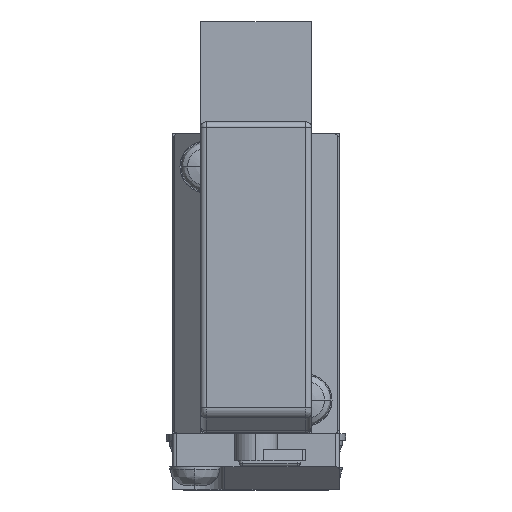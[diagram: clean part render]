
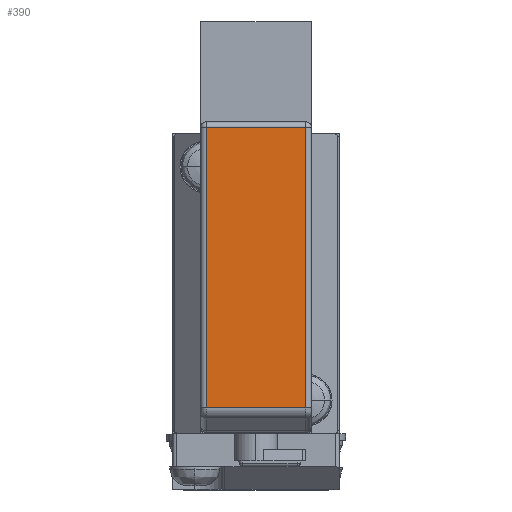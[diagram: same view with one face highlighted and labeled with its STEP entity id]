
A CAD part, top view. The second image highlights one B-rep face of the part: STEP entity #390.
In plain terms, the highlighted planar face has unit normal (0, 0, 1).
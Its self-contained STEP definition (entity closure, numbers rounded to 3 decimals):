
#390=ADVANCED_FACE('',(#1567),#1566,.F.);
#1566=PLANE('',#4520);
#1567=FACE_OUTER_BOUND('',#4521,.T.);
#4517=CARTESIAN_POINT('',(5.4,-27.283,27.4));
#4518=DIRECTION('',(0.,0.,-1.));
#4519=DIRECTION('',(-1.,0.,0.));
#4520=AXIS2_PLACEMENT_3D('',#4517,#4518,#4519);
#4521=EDGE_LOOP('',(#6446,#6447,#6448,#6449));
#6446=ORIENTED_EDGE('',*,*,#7913,.T.);
#6447=ORIENTED_EDGE('',*,*,#7877,.T.);
#6448=ORIENTED_EDGE('',*,*,#7914,.F.);
#6449=ORIENTED_EDGE('',*,*,#7898,.T.);
#7877=EDGE_CURVE('',#9867,#9880,#9887,.T.);
#7898=EDGE_CURVE('',#9998,#10018,#10025,.T.);
#7913=EDGE_CURVE('',#10018,#9867,#10120,.T.);
#7914=EDGE_CURVE('',#9998,#9880,#10126,.T.);
#9867=VERTEX_POINT('',#14849);
#9880=VERTEX_POINT('',#14858);
#9887=LINE('',#14863,#14864);
#9998=VERTEX_POINT('',#14935);
#10018=VERTEX_POINT('',#14949);
#10025=LINE('',#14954,#14955);
#10120=LINE('',#15007,#15008);
#10126=LINE('',#15010,#15011);
#14849=CARTESIAN_POINT('',(-4.5,0.5,27.4));
#14858=CARTESIAN_POINT('',(-4.5,-24.758,27.4));
#14863=CARTESIAN_POINT('',(-4.5,0.5,27.4));
#14864=VECTOR('',#14865,25.258);
#14865=DIRECTION('',(0.,-1.,0.));
#14935=CARTESIAN_POINT('',(4.5,-24.758,27.4));
#14949=CARTESIAN_POINT('',(4.5,0.5,27.4));
#14954=CARTESIAN_POINT('',(4.5,-24.758,27.4));
#14955=VECTOR('',#14956,25.258);
#14956=DIRECTION('',(0.,1.,0.));
#15007=CARTESIAN_POINT('',(4.5,0.5,27.4));
#15008=VECTOR('',#15009,9.);
#15009=DIRECTION('',(-1.,0.,0.));
#15010=CARTESIAN_POINT('',(4.5,-24.758,27.4));
#15011=VECTOR('',#15012,9.);
#15012=DIRECTION('',(-1.,0.,0.));
